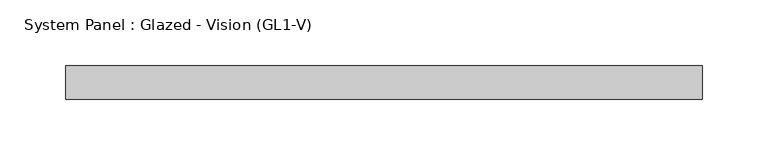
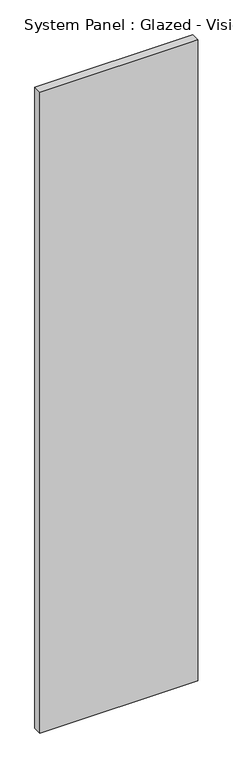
"""IFC4 building model written with IfcOpenShell, lengths in millimetres: plate geometry, System Panel : Glazed - Vision (GL1-V)."""

from ifc_helpers import new_model, si_unit, origin, origin_with_axes, place, context, project, spatial, polyline, outline, extrude, source, transform, mapped, element, save


def system_panel_glazed_vision_gl1_v_f414f010(model_context):
    return source(origin(), model_context, "Body", "SweptSolid", [
        extrude(outline(polyline([(241.3, -25.4), (-241.3, -25.4), (-241.3, 0.0), (241.3, 0.0), (241.3, -25.4)])), origin_with_axes(), (0.0, 0.0, 1.0), 2070.1),
    ])


if __name__ == "__main__":
    model = new_model("IFC4")
    model_context = context("Model", 3, world=origin())
    ifc_project = project(units=[si_unit("LENGTHUNIT", "METRE", prefix="MILLI")], contexts=[model_context])
    site = spatial("IfcSite", under=ifc_project)
    building = spatial("IfcBuilding", under=site)
    placement = place(None, origin())
    system_panel_glazed_vision_gl1_v_shape = system_panel_glazed_vision_gl1_v_f414f010(model_context)
    element("IfcPlate", 1, ObjectType="System Panel : Glazed - Vision (GL1-V)", at=placement, inside=building, context=model_context, shape_type="MappedRepresentation", body=[
        mapped(system_panel_glazed_vision_gl1_v_shape, transform((0.0, 0.0, 0.0), x_axis=(1.0, 0.0, 0.0), y_axis=(0.0, 1.0, 0.0), z_axis=(0.0, 0.0, 1.0))),
    ])
    save(model, "model.ifc")
